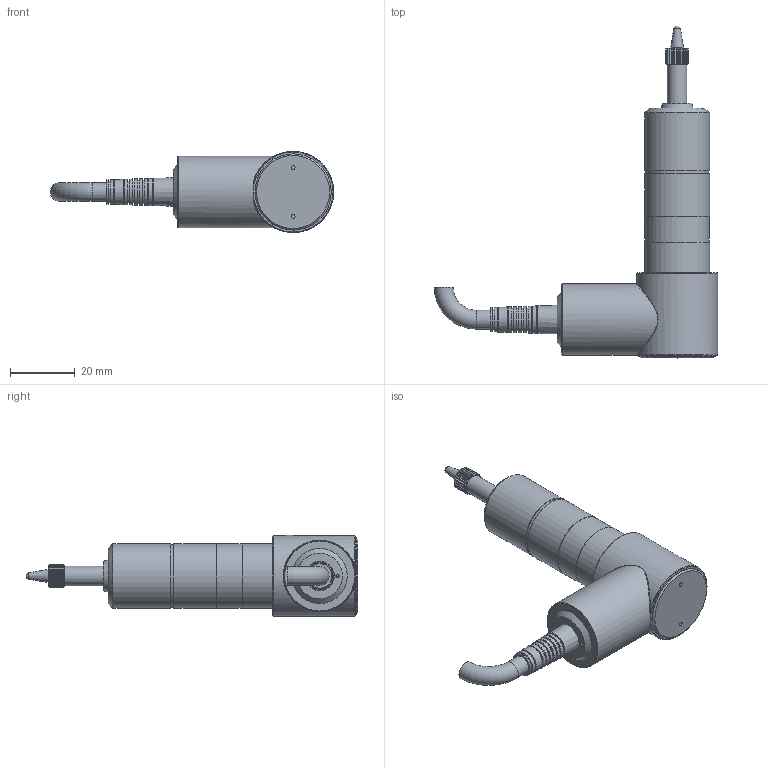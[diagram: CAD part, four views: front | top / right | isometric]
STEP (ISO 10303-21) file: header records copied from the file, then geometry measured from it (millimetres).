
FILE_DESCRIPTION( ( 'STEP AP203' ), '1' );
FILE_NAME( 'N:/Engineering/CAD_Solid/Magnescale/DG-Serie/DG 10 BS/Kunden 3D/DG 10 BS vereinfacht.stp', '2010-08-03T11:07:43', ( ' ' ), ( ' ' ), 'XStep 1.0', ' ', ' ' );
FILE_SCHEMA( ( 'CONFIG_CONTROL_DESIGN) ( )' ) );
Length unit declared in the file: metre
Products named in the file (9): 1; 2; 3; 4; 5; 6; 7; 8; 9
Bounding box: 87.32 x 102.28 x 25 mm (x, y, z)
Surface area: 11287.4 mm2 (no closed solid volume)
Topology: 0 solids, 206 shells, 206 faces, 971 edges, 922 vertices
Faces by surface type: plane 87, cone 64, cylinder 52, bspline 2, torus 1
Full cylindrical faces by diameter (mm): 1 x2, 1.2 x2, 1.5 x2, 5.8 x1, 6 x1, 6.567 x1, 6.667 x1, 6.867 x1, 6.967 x1, 7.067 x1, 7.167 x1, 7.267 x1, 7.367 x1, 7.434 x1, 9 x1, 13.376 x1, 19.4 x1, 19.8 x1, 20 x3, 22 x1, 23.5 x1, 25 x1
Entity records: 12404 total; most frequent: CARTESIAN_POINT 4983, DIRECTION 1488, ORIENTED_EDGE 906, EDGE_CURVE 906, VERTEX_POINT 906, AXIS2_PLACEMENT_3D 569, CIRCLE 356, LINE 350
